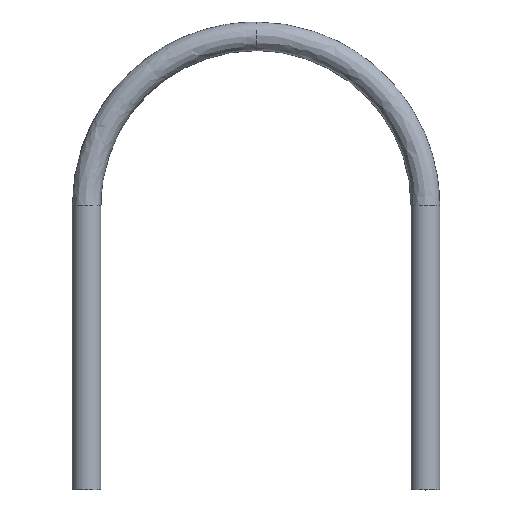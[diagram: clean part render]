
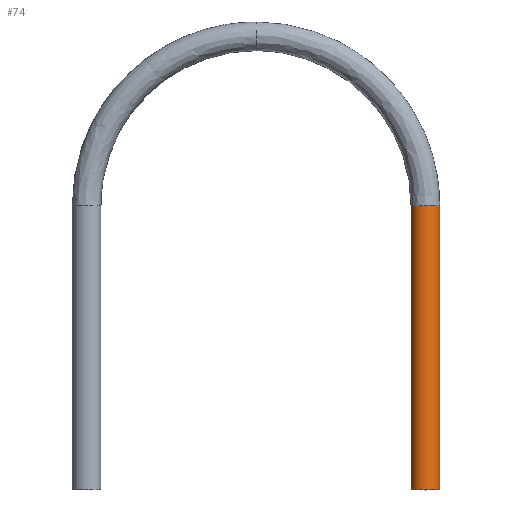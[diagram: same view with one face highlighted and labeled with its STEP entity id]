
A CAD part, top view. The second image highlights one B-rep face of the part: STEP entity #74.
In plain terms, the highlighted cylindrical face has radius 7.938 mm (diameter 15.875 mm), a partial arc.
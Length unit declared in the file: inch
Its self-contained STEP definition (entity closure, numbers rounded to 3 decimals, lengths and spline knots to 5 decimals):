
#74=ADVANCED_FACE('',(#132),#133,.T.);
#132=FACE_OUTER_BOUND('',#458,.T.);
#133=CYLINDRICAL_SURFACE('',#459,0.3125);
#458=EDGE_LOOP('',(#520,#521,#522,#523));
#459=AXIS2_PLACEMENT_3D('',#524,#525,#526);
#520=ORIENTED_EDGE('',*,*,#561,.F.);
#521=ORIENTED_EDGE('',*,*,#549,.T.);
#522=ORIENTED_EDGE('',*,*,#562,.F.);
#523=ORIENTED_EDGE('',*,*,#559,.T.);
#524=CARTESIAN_POINT('',(7.375,0.0,0.0));
#525=DIRECTION('',(-0.0,-1.0,-0.0));
#526=DIRECTION('',(-1.0,0.0,0.0));
#549=EDGE_CURVE('',#586,#587,#588,.T.);
#559=EDGE_CURVE('',#566,#568,#598,.T.);
#561=EDGE_CURVE('',#586,#568,#600,.T.);
#562=EDGE_CURVE('',#566,#587,#601,.T.);
#566=VERTEX_POINT('',#605);
#568=VERTEX_POINT('',#612);
#586=VERTEX_POINT('',#645);
#587=VERTEX_POINT('',#646);
#588=CIRCLE('',#647,0.3125);
#598=CIRCLE('',#659,0.3125);
#600=LINE('',#661,#662);
#601=LINE('',#663,#664);
#605=CARTESIAN_POINT('',(7.6875,6.1875,0.));
#612=CARTESIAN_POINT('',(7.0625,6.1875,0.0));
#645=CARTESIAN_POINT('',(7.0625,0.0,0.0));
#646=CARTESIAN_POINT('',(7.6875,0.0,0.));
#647=AXIS2_PLACEMENT_3D('',#681,#682,#683);
#659=AXIS2_PLACEMENT_3D('',#695,#696,#697);
#661=CARTESIAN_POINT('',(7.0625,0.0,0.));
#662=VECTOR('',#698,1.0);
#663=CARTESIAN_POINT('',(7.6875,0.0,0.));
#664=VECTOR('',#699,1.0);
#681=CARTESIAN_POINT('',(7.375,0.0,0.0));
#682=DIRECTION('',(0.0,1.0,0.0));
#683=DIRECTION('',(-1.0,0.0,0.0));
#695=CARTESIAN_POINT('',(7.375,6.1875,0.0));
#696=DIRECTION('',(-0.0,-1.0,-0.0));
#697=DIRECTION('',(-1.0,0.0,0.0));
#698=DIRECTION('',(0.0,1.0,0.0));
#699=DIRECTION('',(-0.0,-1.0,-0.0));
